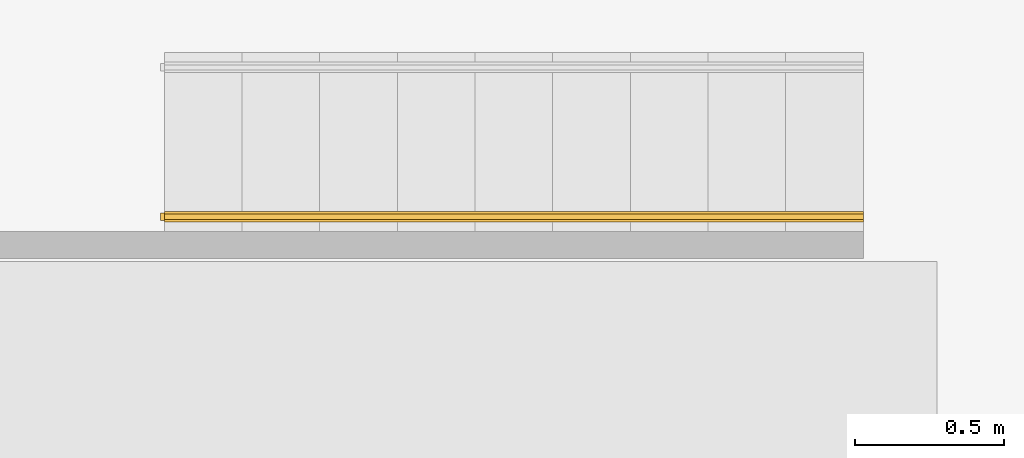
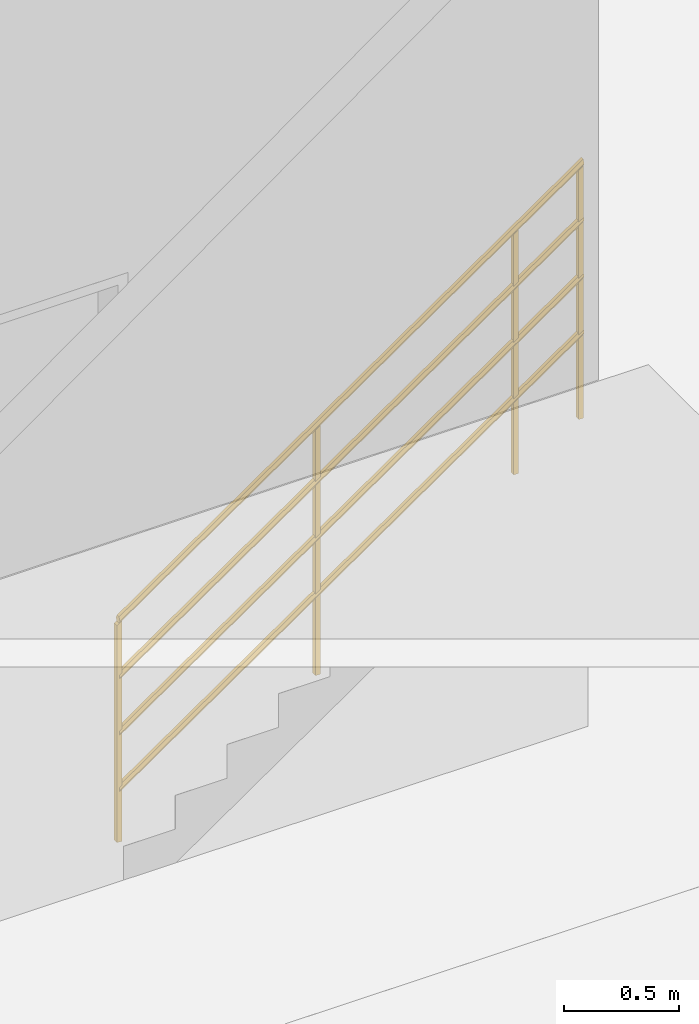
# One storey, part 26 of 30: 1 railing, 1 element without a shape of its own.
"""IFC2X3 building model written with IfcOpenShell, lengths in millimetres."""

import ifcopenshell
import ifcopenshell.guid

model = None  # the IFC model being written
_history = None  # IfcOwnerHistory: only IFC2X3 demands one
_inside = {}  # id of a spatial element -> (the spatial element, [elements in it])
_under = {}  # id of a project, library or spatial element -> (it, [spatial elements below it])
_declared = {}  # id of a project -> (the project, [libraries it declares])
_typed = {}  # id of a type object -> (the type object, [elements of that type])
_made_of = {}  # id of a material, layer set ... -> (it, [elements and type objects made of it])


def new_model(schema):
    """Start an empty IFC model of exactly this schema.

    Asked for "IFC4X3", IfcOpenShell would pick the latest addendum, in which some entities
    have other attributes; the version numbers below select the first issue.
    IFC2X3 requires an IfcOwnerHistory on every rooted entity: one is made here for all.
    """
    global model, _history
    if schema == "IFC4X3":
        model = ifcopenshell.file(schema_version=(4, 3, 0, 0))
    else:
        model = ifcopenshell.file(schema=schema)
    _inside.clear()
    _under.clear()
    _declared.clear()
    _typed.clear()
    _made_of.clear()
    _history = None
    if model.schema == "IFC2X3":
        org = make("IfcOrganization", Name="unknown")
        user = make(
            "IfcPersonAndOrganization",
            ThePerson=make("IfcPerson", FamilyName="unknown"),
            TheOrganization=org,
        )
        app = make(
            "IfcApplication",
            ApplicationDeveloper=org,
            Version="unknown",
            ApplicationFullName="unknown",
            ApplicationIdentifier="unknown",
        )
        _history = make(
            "IfcOwnerHistory",
            OwningUser=user,
            OwningApplication=app,
            ChangeAction="ADDED",
            CreationDate=0,
        )
    return model


def make(cls, **values):
    """One entity of the class cls with the attributes given. An attribute that is None is left unset."""
    return model.create_entity(
        cls, **{name: value for name, value in values.items() if value is not None}
    )


def entity(cls, *values):
    """Any entity or typed value of the class cls, its attributes in the order of the schema. None: left unset."""
    e = model.create_entity(cls)
    for i, value in enumerate(values):
        if value is not None:
            e[i] = value
    return e


def rooted(cls, **values):
    """An entity with a GlobalId (a new one), such as an element, a storey or a relation."""
    return make(cls, GlobalId=ifcopenshell.guid.new(), OwnerHistory=_history, **values)


def si_unit(unit_type, name, prefix=None):
    """IfcSIUnit, for example si_unit("LENGTHUNIT", "METRE", prefix="MILLI")."""
    return make("IfcSIUnit", UnitType=unit_type, Prefix=prefix, Name=name)


def converted_unit(unit_type, name, factor, base, dimensions=None, offset=None):
    """IfcConversionBasedUnit, such as the inch: factor (a typed value) times the base unit."""
    return make(
        "IfcConversionBasedUnit"
        if offset is None
        else "IfcConversionBasedUnitWithOffset",
        ConversionOffset=offset,
        Dimensions=None
        if dimensions is None
        else entity("IfcDimensionalExponents", *dimensions),
        UnitType=unit_type,
        Name=name,
        ConversionFactor=make(
            "IfcMeasureWithUnit", ValueComponent=factor, UnitComponent=base
        ),
    )


def derived_unit(unit_type, elements):
    """IfcDerivedUnit: a product of units, each with its exponent."""
    return make(
        "IfcDerivedUnit",
        Elements=[
            make("IfcDerivedUnitElement", Unit=unit, Exponent=power)
            for unit, power in elements
        ],
        UnitType=unit_type,
    )


def assignment(units):
    """IfcUnitAssignment: the units of a project."""
    return None if units is None else make("IfcUnitAssignment", Units=units)


def point(xyz):
    """IfcCartesianPoint."""
    return None if xyz is None else make("IfcCartesianPoint", Coordinates=xyz)


def direction(xyz):
    """IfcDirection."""
    return None if xyz is None else make("IfcDirection", DirectionRatios=xyz)


def frame(location, z_axis=None, x_axis=None):
    """IfcAxis2Placement3D, a coordinate frame: its origin and axes. An axis left out is left unset."""
    return make(
        "IfcAxis2Placement3D",
        Location=point(location),
        Axis=direction(z_axis),
        RefDirection=direction(x_axis),
    )


def origin():
    """The frame at (0, 0, 0) with its axes left unset."""
    return frame((0.0, 0.0, 0.0))


def place(relative_to, where):
    """IfcLocalPlacement: puts the frame where relative to a parent placement (None: the world)."""
    return make(
        "IfcLocalPlacement", PlacementRelTo=relative_to, RelativePlacement=where
    )


def context(
    kind, dimensions, precision=None, world=None, true_north=None, identifier=None
):
    """IfcGeometricRepresentationContext, for example the 3D "Model" context."""
    return make(
        "IfcGeometricRepresentationContext",
        ContextIdentifier=identifier,
        ContextType=kind,
        CoordinateSpaceDimension=dimensions,
        Precision=precision,
        WorldCoordinateSystem=world,
        TrueNorth=true_north,
    )


def subcontext(parent, identifier, kind, view, scale=None):
    """IfcGeometricRepresentationSubContext, for example "Body" below "Model"."""
    return make(
        "IfcGeometricRepresentationSubContext",
        ContextIdentifier=identifier,
        ContextType=kind,
        ParentContext=parent,
        TargetScale=scale,
        TargetView=view,
    )


def project(units=None, contexts=None):
    """IfcProject with its units and contexts."""
    return rooted(
        "IfcProject",
        Name="project",
        RepresentationContexts=contexts,
        UnitsInContext=assignment(units),
    )


def spatial(cls, under=None, at=None, **own):
    """A site, building, storey or space (cls), placed at a placement, below another one or the project."""
    s = rooted(cls, ObjectPlacement=at, **own)
    if under is not None:
        _under.setdefault(under.id(), (under, []))[1].append(s)
    return s


def faces_of(points, faces, orient=None, outer=None):
    """IfcFace entities. A face is a list of loops; a loop is a list of indices into points, from 0.

    orient and outer hold one flag for each loop. By default every Orientation is true, the
    first loop of a face is its IfcFaceOuterBound and the others are IfcFaceBound.
    """
    made = []
    for i, loops in enumerate(faces):
        bounds = []
        for j, loop in enumerate(loops):
            is_outer = j == 0 if outer is None else outer[i][j]
            bounds.append(
                make(
                    "IfcFaceOuterBound" if is_outer else "IfcFaceBound",
                    Bound=make("IfcPolyLoop", Polygon=[points[k] for k in loop]),
                    Orientation=True if orient is None else orient[i][j],
                )
            )
        made.append(make("IfcFace", Bounds=bounds))
    return made


def faceted_brep(points, faces, orient=None, outer=None, voids=None):
    """IfcFacetedBrep: a solid bounded by flat faces; with voids (closed shells), ...WithVoids."""
    shared = [point(p) for p in points]
    hull = make("IfcClosedShell", CfsFaces=faces_of(shared, faces, orient, outer))
    if voids is None:
        return make("IfcFacetedBrep", Outer=hull)
    return make(
        "IfcFacetedBrepWithVoids",
        Outer=hull,
        Voids=[
            make(cls, CfsFaces=faces_of(shared, fs, o, b)) for cls, fs, o, b in voids
        ],
    )


def shape(context_of_items, identifier, shape_type, items):
    """IfcShapeRepresentation: the items that make up one representation, for example the "Body"."""
    return make(
        "IfcShapeRepresentation",
        ContextOfItems=context_of_items,
        RepresentationIdentifier=identifier,
        RepresentationType=shape_type,
        Items=items,
    )


def material(Name=None, Category=None):
    """IfcMaterial."""
    return make("IfcMaterial", Name=Name, Category=Category)


def material_list(materials):
    """IfcMaterialList."""
    return make("IfcMaterialList", Materials=materials)


def made_of(thing, what):
    """Note that an element or type object is made of a material, layer set ...; save() writes the relation."""
    if what is not None:
        _made_of.setdefault(what.id(), (what, []))[1].append(thing)
    return thing


def element(
    cls,
    number,
    at=None,
    inside=None,
    cuts=None,
    type_object=None,
    material=None,
    context=None,
    identifier="Body",
    shape_type=None,
    held_by="IfcProductDefinitionShape",
    body=None,
    shapes=None,
    **own,
):
    """One element of the class cls, such as IfcWall. Its Tag is "e" and its number.

    at: its placement. inside: the storey or other place that contains it. cuts: it is an
    opening in that element (IfcRelVoidsElement). A single representation is given by context,
    identifier, shape_type and body (its items); several are given by shapes. held_by: the class
    of the entity that holds the representations. save() writes the other relations.
    """
    e = rooted(cls, Tag="e%d" % number, ObjectPlacement=at, **own)
    if body is not None:
        shapes = [shape(context, identifier, shape_type, body)]
    if shapes is not None:
        e.Representation = make(held_by, Representations=shapes)
    if inside is not None:
        _inside.setdefault(inside.id(), (inside, []))[1].append(e)
    if cuts is not None:
        rooted(
            "IfcRelVoidsElement", RelatingBuildingElement=cuts, RelatedOpeningElement=e
        )
    if type_object is not None:
        _typed.setdefault(type_object.id(), (type_object, []))[1].append(e)
    return made_of(e, material)


def aggregate(whole, parts):
    """IfcRelAggregates: a whole, such as a stair, and the parts it consists of."""
    return rooted("IfcRelAggregates", RelatingObject=whole, RelatedObjects=parts)


def save(model, path):
    """Write the relations noted so far, then the file.

    IfcRelAggregates (storeys below a building ...), IfcRelContainedInSpatialStructure (elements
    in a storey), IfcRelDefinesByType, IfcRelAssociatesMaterial and IfcRelDeclares: one each for
    every whole, place, type object, material and project.
    """
    for whole, parts in _under.values():
        aggregate(whole, parts)
    for where, things in _inside.values():
        rooted(
            "IfcRelContainedInSpatialStructure",
            RelatedElements=things,
            RelatingStructure=where,
        )
    for kind, things in _typed.values():
        rooted("IfcRelDefinesByType", RelatedObjects=things, RelatingType=kind)
    for what, things in _made_of.values():
        rooted("IfcRelAssociatesMaterial", RelatedObjects=things, RelatingMaterial=what)
    for by, libraries in _declared.values():
        rooted("IfcRelDeclares", RelatingContext=by, RelatedDefinitions=libraries)
    model.write(path)


model = new_model("IFC2X3")

# Units and contexts
model_context = context("Model", 3, precision=0.01, world=origin(), true_north=direction((6.123031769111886e-17, 1.0)))
body_context = subcontext(model_context, "Body", "Model", "MODEL_VIEW")
ifc_project = project(units=[si_unit("LENGTHUNIT", "METRE", prefix="MILLI"), si_unit("AREAUNIT", "SQUARE_METRE"), si_unit("VOLUMEUNIT", "CUBIC_METRE"), converted_unit("PLANEANGLEUNIT", "DEGREE", entity("IfcRatioMeasure", 0.017453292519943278), si_unit("PLANEANGLEUNIT", "RADIAN"), dimensions=[0, 0, 0, 0, 0, 0, 0]), si_unit("MASSUNIT", "GRAM", prefix="KILO"), derived_unit("MASSDENSITYUNIT", [(si_unit("MASSUNIT", "GRAM", prefix="KILO"), 1), (si_unit("LENGTHUNIT", "METRE"), -3)]), derived_unit("MOMENTOFINERTIAUNIT", [(si_unit("LENGTHUNIT", "METRE"), 4)]), si_unit("TIMEUNIT", "SECOND"), si_unit("FREQUENCYUNIT", "HERTZ"), si_unit("THERMODYNAMICTEMPERATUREUNIT", "DEGREE_CELSIUS"), derived_unit("THERMALTRANSMITTANCEUNIT", [(si_unit("MASSUNIT", "GRAM", prefix="KILO"), 1), (si_unit("THERMODYNAMICTEMPERATUREUNIT", "KELVIN"), -1), (si_unit("TIMEUNIT", "SECOND"), -3)]), derived_unit("VOLUMETRICFLOWRATEUNIT", [(si_unit("LENGTHUNIT", "METRE"), 3), (si_unit("TIMEUNIT", "SECOND"), -1)]), derived_unit("MASSFLOWRATEUNIT", [(si_unit("MASSUNIT", "GRAM", prefix="KILO"), 1), (si_unit("TIMEUNIT", "SECOND"), -1)]), derived_unit("ROTATIONALFREQUENCYUNIT", [(si_unit("TIMEUNIT", "SECOND"), -1)]), si_unit("ELECTRICCURRENTUNIT", "AMPERE"), si_unit("ELECTRICVOLTAGEUNIT", "VOLT"), si_unit("POWERUNIT", "WATT"), si_unit("FORCEUNIT", "NEWTON", prefix="KILO"), si_unit("ILLUMINANCEUNIT", "LUX"), si_unit("LUMINOUSFLUXUNIT", "LUMEN"), si_unit("LUMINOUSINTENSITYUNIT", "CANDELA"), derived_unit("USERDEFINED", [(si_unit("MASSUNIT", "GRAM", prefix="KILO"), -1), (si_unit("LENGTHUNIT", "METRE"), -2), (si_unit("TIMEUNIT", "SECOND"), 3), (si_unit("LUMINOUSFLUXUNIT", "LUMEN"), 1)]), derived_unit("SOUNDPOWERUNIT", [(si_unit("MASSUNIT", "GRAM", prefix="KILO"), 1), (si_unit("LENGTHUNIT", "METRE"), 2), (si_unit("TIMEUNIT", "SECOND"), -3)]), derived_unit("SOUNDPRESSUREUNIT", [(si_unit("MASSUNIT", "GRAM", prefix="KILO"), 1), (si_unit("LENGTHUNIT", "METRE"), -1), (si_unit("TIMEUNIT", "SECOND"), -2)]), derived_unit("LINEARVELOCITYUNIT", [(si_unit("LENGTHUNIT", "METRE"), 1), (si_unit("TIMEUNIT", "SECOND"), -1)]), si_unit("PRESSUREUNIT", "PASCAL"), derived_unit("USERDEFINED", [(si_unit("LENGTHUNIT", "METRE"), -2), (si_unit("MASSUNIT", "GRAM", prefix="KILO"), 1), (si_unit("TIMEUNIT", "SECOND"), -2)]), derived_unit("LINEARFORCEUNIT", [(si_unit("MASSUNIT", "GRAM", prefix="KILO"), 1), (si_unit("LENGTHUNIT", "METRE"), 1), (si_unit("TIMEUNIT", "SECOND"), -2), (si_unit("LENGTHUNIT", "METRE"), -1)]), derived_unit("PLANARFORCEUNIT", [(si_unit("MASSUNIT", "GRAM", prefix="KILO"), 1), (si_unit("LENGTHUNIT", "METRE"), 1), (si_unit("TIMEUNIT", "SECOND"), -2), (si_unit("LENGTHUNIT", "METRE"), -2)])], contexts=[model_context])

# Site, building, storey
site_placement = place(None, frame((-14167.972527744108, -657.2125860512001, 0.0)))
site = spatial("IfcSite", under=ifc_project, at=site_placement, Name="Default", CompositionType="ELEMENT")
building_placement = place(site_placement, origin())
building = spatial("IfcBuilding", under=site, at=building_placement, Name="Sample Building", CompositionType="ELEMENT")
storey_placement = place(building_placement, frame((0.0, 0.0, -10100.0)))
storey = spatial("IfcBuildingStorey", under=building, at=storey_placement, Name="지하2층", CompositionType="ELEMENT", Elevation=-10100.0)

# Stair, railing
stair_placement = place(storey_placement, origin())
stair = element("IfcStair", 1, at=stair_placement, inside=storey, Name="현장타설 계단:계단", ObjectType="현장타설 계단:ST111-철근콘크리트구조 계단 (직선형)", ShapeType="STRAIGHT_RUN_STAIR")
ifc_material_1 = material(Name="KBIMS-난간")
ifc_material_2 = material(Name="KBIMS-금속재")
ifc_material_list = material_list([ifc_material_1, ifc_material_1, ifc_material_1, ifc_material_1, ifc_material_2, ifc_material_2, ifc_material_2, ifc_material_2])
railing_placement = place(stair_placement, frame((16065.463798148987, 18188.117035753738, -1620.0)))
railing = element("IfcRailing", 2, at=railing_placement, material=ifc_material_list, Name="난간:RL780-금속재 난간", ObjectType="난간:RL780-금속재 난간", PredefinedType="NOTDEFINED", context=body_context, shape_type="Brep", body=[
    faceted_brep([(2000.0, 6.595272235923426, 2540.9615384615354), (2000.0, 31.59527223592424, 2540.9615384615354), (2000.0, 31.59527223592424, 1260.0), (2000.0, 6.5952722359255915, 1260.0), (2025.0, 6.5952722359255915, 2558.269230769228), (2025.0, 6.5952722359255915, 1260.0), (2025.0, 31.595272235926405, 2558.269230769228), (2025.0, 31.59527223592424, 1260.0)], [[[0, 1, 2, 3]], [[4, 0, 3, 5]], [[6, 4, 5, 7]], [[1, 6, 7, 2]], [[1, 0, 4, 6]], [[3, 2, 7, 5]]]),
    faceted_brep([(1000.0, 6.5952722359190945, 1848.6538461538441), (1000.0, 31.595272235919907, 1848.6538461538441), (1000.0, 31.595272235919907, 540.0), (1000.0, 6.59527223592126, 540.0), (1025.0, 6.59527223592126, 1865.961538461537), (1025.0, 6.59527223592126, 540.0), (1025.0, 31.595272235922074, 1865.961538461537), (1025.0, 31.595272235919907, 540.0)], [[[0, 1, 2, 3]], [[4, 0, 3, 5]], [[6, 4, 5, 7]], [[1, 6, 7, 2]], [[1, 0, 4, 6]], [[3, 2, 7, 5]]]),
    faceted_brep([(2327.5000000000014, 6.595272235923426, 2767.692307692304), (2327.5000000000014, 31.59527223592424, 2767.6923076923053), (2327.5000000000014, 31.59527223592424, 1440.0), (2327.5000000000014, 6.5952722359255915, 1440.0), (2352.5000000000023, 6.5952722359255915, 2785.0), (2352.5, 6.5952722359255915, 1440.0), (2352.5, 31.595272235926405, 2785.0), (2352.5, 31.59527223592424, 1440.0)], [[[0, 1, 2, 3]], [[4, 0, 3, 5]], [[6, 4, 5, 7]], [[1, 6, 7, 2]], [[1, 0, 4, 6]], [[3, 2, 7, 5]]]),
    faceted_brep([(0.0, 6.595272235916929, 1156.346153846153), (0.0, 31.595272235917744, 1156.346153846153), (0.0, 31.595272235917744, 0.0), (0.0, 6.5952722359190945, 0.0), (25.0, 6.5952722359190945, 1173.6538461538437), (25.0, 6.5952722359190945, 0.0), (25.0, 31.595272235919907, 1173.6538461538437), (25.0, 31.595272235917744, 0.0)], [[[0, 1, 2, 3]], [[4, 0, 3, 5]], [[6, 4, 5, 7]], [[1, 6, 7, 2]], [[1, 0, 4, 6]], [[3, 2, 7, 5]]]),
    faceted_brep([(12.50000000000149, 27.845272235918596, 1197.1484095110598), (12.500000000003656, 30.032772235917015, 1192.5401668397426), (12.50000000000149, 32.220272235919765, 1187.9319241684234), (12.50000000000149, 34.21034233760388, 1183.7395923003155), (12.50000000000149, 36.59527223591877, 1178.715438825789), (12.50000000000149, 34.210342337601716, 1173.691285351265), (12.50000000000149, 32.220272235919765, 1169.498953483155), (12.500000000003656, 30.032772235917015, 1164.8907108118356), (12.50000000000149, 27.845272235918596, 1160.2824681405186), (12.50000000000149, 23.470272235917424, 1160.2824681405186), (12.50000000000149, 19.09527223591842, 1160.2824681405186), (12.50000000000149, 14.720272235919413, 1160.2824681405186), (12.50000000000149, 10.345272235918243, 1160.2824681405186), (12.500000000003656, 8.157772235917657, 1164.8907108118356), (12.50000000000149, 5.970272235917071, 1169.498953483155), (12.50000000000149, 3.7827722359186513, 1174.107196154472), (12.50000000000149, 1.5952722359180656, 1178.715438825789), (12.50000000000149, 3.98020213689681, 1183.7395923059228), (12.500000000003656, 6.365132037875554, 1188.7637457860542), (12.50000000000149, 8.355202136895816, 1192.9560776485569), (12.50000000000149, 10.345272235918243, 1197.1484095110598), (12.50000000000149, 14.720272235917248, 1197.1484095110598), (12.50000000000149, 19.09527223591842, 1197.1484095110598), (12.50000000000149, 23.47027223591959, 1197.1484095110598), (2352.5, 8.157772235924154, 2812.5401668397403), (2352.5, 5.970272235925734, 2807.931924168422), (2352.5, 3.9802021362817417, 2803.739592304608), (2352.5, 1.5952722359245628, 2798.715438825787), (2352.5, 3.98020213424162, 2793.6912853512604), (2352.5, 5.970272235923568, 2789.4989534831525), (2352.5, 8.157772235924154, 2784.8907108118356), (2352.5, 10.345272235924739, 2780.2824681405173), (2352.5, 14.720272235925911, 2780.2824681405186), (2352.5, 19.095272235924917, 2780.2824681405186), (2352.499999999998, 23.470272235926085, 2780.2824681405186), (2352.5, 27.84527223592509, 2780.2824681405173), (2352.5, 29.835342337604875, 2784.474800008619), (2352.5, 31.82541243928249, 2788.667131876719), (2352.5, 34.21034233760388, 2793.6912853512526), (2352.5, 36.59527223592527, 2798.715438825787), (2352.5, 34.40777223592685, 2803.323681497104), (2352.5, 32.2202722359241, 2807.931924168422), (2352.5, 30.032772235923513, 2812.5401668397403), (2352.5, 27.84527223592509, 2817.1484095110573), (2352.5, 23.47027223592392, 2817.1484095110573), (2352.5, 19.095272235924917, 2817.1484095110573), (2352.5, 14.720272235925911, 2817.1484095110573), (2352.5, 10.345272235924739, 2817.1484095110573)], [[[0, 1, 2, 3, 4, 5, 6, 7, 8, 9, 10, 11, 12, 13, 14, 15, 16, 17, 18, 19, 20, 21, 22, 23]], [[24, 25, 26, 27, 28, 29, 30, 31, 32, 33, 34, 35, 36, 37, 38, 39, 40, 41, 42, 43, 44, 45, 46, 47]], [[8, 7, 6, 5, 4, 39, 38, 37, 36, 35]], [[32, 31, 12, 11, 10, 9, 8, 35, 34, 33]], [[27, 16, 15, 14, 13, 12, 31, 30, 29, 28]], [[44, 43, 0, 23, 22, 21, 20, 47, 46, 45]], [[39, 4, 3, 2, 1, 0, 43, 42, 41, 40]], [[25, 24, 47, 20, 19, 18, 17, 16, 27, 26]]]),
    faceted_brep([(12.50000000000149, 27.845272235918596, 897.1484095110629), (12.499999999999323, 30.032772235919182, 892.5401668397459), (12.50000000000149, 32.220272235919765, 887.9319241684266), (12.50000000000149, 34.21034233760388, 883.7395923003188), (12.50000000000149, 36.59527223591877, 878.7154388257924), (12.50000000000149, 34.21034233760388, 873.6912853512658), (12.50000000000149, 32.220272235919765, 869.4989534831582), (12.50000000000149, 30.032772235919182, 864.8907108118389), (12.50000000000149, 27.845272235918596, 860.2824681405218), (12.50000000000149, 23.470272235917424, 860.2824681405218), (12.50000000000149, 19.09527223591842, 860.2824681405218), (12.50000000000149, 14.720272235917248, 860.2824681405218), (12.50000000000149, 10.345272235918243, 860.2824681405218), (12.50000000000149, 8.157772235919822, 864.8907108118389), (12.50000000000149, 5.970272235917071, 869.4989534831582), (12.500000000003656, 3.7827722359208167, 874.1071961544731), (12.50000000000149, 1.5952722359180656, 878.7154388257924), (12.50000000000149, 3.98020213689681, 883.739592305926), (12.500000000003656, 6.365132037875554, 888.7637457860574), (12.50000000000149, 8.355202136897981, 892.9560776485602), (12.50000000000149, 10.345272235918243, 897.1484095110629), (12.50000000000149, 14.720272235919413, 897.1484095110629), (12.499999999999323, 19.09527223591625, 897.1484095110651), (12.50000000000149, 23.470272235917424, 897.1484095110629), (2352.5, 8.157772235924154, 2512.5401668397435), (2352.5, 5.970272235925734, 2507.931924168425), (2352.5, 3.9802021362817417, 2503.739592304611), (2352.5, 1.5952722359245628, 2498.71543882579), (2352.5, 3.9802021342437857, 2493.6912853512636), (2352.5, 5.970272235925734, 2489.4989534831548), (2352.5, 8.157772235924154, 2484.890710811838), (2352.5, 10.345272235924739, 2480.2824681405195), (2352.5, 14.720272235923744, 2480.2824681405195), (2352.5, 19.095272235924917, 2480.2824681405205), (2352.5, 23.47027223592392, 2480.2824681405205), (2352.5, 27.84527223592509, 2480.2824681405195), (2352.5, 29.83534233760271, 2484.474800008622), (2352.5, 31.82541243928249, 2488.667131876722), (2352.5, 34.21034233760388, 2493.691285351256), (2352.5, 36.59527223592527, 2498.71543882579), (2352.5, 34.40777223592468, 2503.3236814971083), (2352.5, 32.2202722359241, 2507.931924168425), (2352.5, 30.032772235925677, 2512.5401668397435), (2352.5, 27.84527223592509, 2517.148409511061), (2352.5, 23.47027223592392, 2517.148409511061), (2352.5, 19.095272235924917, 2517.148409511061), (2352.5, 14.720272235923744, 2517.148409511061), (2352.5, 10.345272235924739, 2517.148409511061)], [[[0, 1, 2, 3, 4, 5, 6, 7, 8, 9, 10, 11, 12, 13, 14, 15, 16, 17, 18, 19, 20, 21, 22, 23]], [[24, 25, 26, 27, 28, 29, 30, 31, 32, 33, 34, 35, 36, 37, 38, 39, 40, 41, 42, 43, 44, 45, 46, 47]], [[8, 7, 6, 5, 4, 39, 38, 37, 36, 35]], [[32, 31, 12, 11, 10, 9, 8, 35, 34, 33]], [[27, 16, 15, 14, 13, 12, 31, 30, 29, 28]], [[44, 43, 0, 23, 22, 21, 20, 47, 46, 45]], [[39, 4, 3, 2, 1, 0, 43, 42, 41, 40]], [[25, 24, 47, 20, 19, 18, 17, 16, 27, 26]]]),
    faceted_brep([(12.50000000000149, 36.59527223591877, 578.7154388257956), (12.50000000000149, 34.210342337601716, 573.6912853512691), (12.50000000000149, 32.220272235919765, 569.4989534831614), (12.50000000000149, 30.032772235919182, 564.8907108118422), (12.50000000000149, 27.845272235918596, 560.282468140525), (12.50000000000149, 23.470272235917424, 560.282468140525), (12.50000000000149, 19.09527223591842, 560.282468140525), (12.50000000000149, 14.720272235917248, 560.282468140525), (12.50000000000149, 10.345272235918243, 560.282468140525), (12.50000000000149, 8.157772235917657, 564.8907108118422), (12.50000000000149, 5.970272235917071, 569.4989534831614), (12.50000000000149, 3.7827722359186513, 574.1071961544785), (12.50000000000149, 1.5952722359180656, 578.7154388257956), (12.50000000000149, 3.98020213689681, 583.739592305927), (12.500000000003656, 6.365132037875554, 588.7637457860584), (12.50000000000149, 8.355202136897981, 592.9560776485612), (12.50000000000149, 10.345272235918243, 597.148409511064), (12.50000000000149, 14.720272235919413, 597.148409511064), (12.499999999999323, 19.09527223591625, 597.148409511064), (12.50000000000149, 23.470272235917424, 597.148409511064), (12.50000000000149, 27.845272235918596, 597.148409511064), (12.499999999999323, 30.032772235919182, 592.5401668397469), (12.50000000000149, 32.220272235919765, 587.9319241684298), (12.50000000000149, 34.21034233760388, 583.7395923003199), (2352.5, 8.157772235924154, 2212.5401668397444), (2352.5, 5.970272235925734, 2207.9319241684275), (2352.5, 3.9802021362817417, 2203.7395923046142), (2352.5, 1.5952722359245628, 2198.7154388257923), (2352.5, 3.98020213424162, 2193.691285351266), (2352.5, 5.970272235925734, 2189.498953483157), (2352.5, 8.157772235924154, 2184.8907108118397), (2352.5, 10.345272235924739, 2180.2824681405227), (2352.5, 14.720272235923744, 2180.2824681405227), (2352.5, 19.095272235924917, 2180.2824681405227), (2352.5, 23.47027223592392, 2180.2824681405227), (2352.5, 27.84527223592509, 2180.2824681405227), (2352.5, 29.83534233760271, 2184.474800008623), (2352.5, 31.82541243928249, 2188.667131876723), (2352.5, 34.21034233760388, 2193.691285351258), (2352.5, 36.59527223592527, 2198.7154388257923), (2352.5, 34.40777223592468, 2203.3236814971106), (2352.5, 32.2202722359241, 2207.9319241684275), (2352.5, 30.032772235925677, 2212.5401668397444), (2352.5, 27.84527223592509, 2217.1484095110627), (2352.5, 23.47027223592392, 2217.1484095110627), (2352.5, 19.095272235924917, 2217.1484095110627), (2352.5, 14.720272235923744, 2217.1484095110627), (2352.5, 10.345272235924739, 2217.1484095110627)], [[[0, 1, 2, 3, 4, 5, 6, 7, 8, 9, 10, 11, 12, 13, 14, 15, 16, 17, 18, 19, 20, 21, 22, 23]], [[24, 25, 26, 27, 28, 29, 30, 31, 32, 33, 34, 35, 36, 37, 38, 39, 40, 41, 42, 43, 44, 45, 46, 47]], [[4, 3, 2, 1, 0, 39, 38, 37, 36, 35]], [[32, 31, 8, 7, 6, 5, 4, 35, 34, 33]], [[27, 12, 11, 10, 9, 8, 31, 30, 29, 28]], [[44, 43, 20, 19, 18, 17, 16, 47, 46, 45]], [[39, 0, 23, 22, 21, 20, 43, 42, 41, 40]], [[25, 24, 47, 16, 15, 14, 13, 12, 27, 26]]]),
    faceted_brep([(12.50000000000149, 27.845272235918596, 297.1484095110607), (12.500000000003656, 30.032772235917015, 292.5401668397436), (12.50000000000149, 32.220272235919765, 287.93192416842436), (12.50000000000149, 34.21034233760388, 283.73959230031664), (12.50000000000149, 36.59527223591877, 278.71543882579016), (12.50000000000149, 34.210342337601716, 273.6912853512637), (12.50000000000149, 32.220272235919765, 269.49895348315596), (12.500000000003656, 30.032772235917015, 264.8907108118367), (12.50000000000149, 27.845272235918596, 260.28246814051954), (12.50000000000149, 23.470272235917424, 260.28246814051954), (12.50000000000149, 19.09527223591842, 260.28246814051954), (12.50000000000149, 14.720272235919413, 260.28246814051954), (12.50000000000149, 10.345272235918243, 260.28246814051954), (12.500000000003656, 8.157772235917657, 264.8907108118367), (12.50000000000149, 5.970272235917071, 269.49895348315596), (12.50000000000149, 3.7827722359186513, 274.10719615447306), (12.50000000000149, 1.5952722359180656, 278.71543882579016), (12.50000000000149, 3.98020213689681, 283.73959230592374), (12.500000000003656, 6.365132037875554, 288.76374578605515), (12.50000000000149, 8.355202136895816, 292.95607764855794), (12.50000000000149, 10.345272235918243, 297.1484095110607), (12.50000000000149, 14.720272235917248, 297.1484095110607), (12.50000000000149, 19.09527223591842, 297.1484095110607), (12.50000000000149, 23.47027223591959, 297.14840951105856), (2352.5, 8.157772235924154, 1912.5401668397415), (2352.5, 5.970272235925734, 1907.9319241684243), (2352.5, 3.9802021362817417, 1903.739592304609), (2352.5, 1.5952722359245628, 1898.715438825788), (2352.5, 3.98020213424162, 1893.6912853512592), (2352.5, 5.970272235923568, 1889.4989534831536), (2352.5, 8.157772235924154, 1884.8907108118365), (2352.5, 10.345272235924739, 1880.2824681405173), (2352.5, 14.720272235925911, 1880.2824681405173), (2352.5, 19.095272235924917, 1880.2824681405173), (2352.499999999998, 23.470272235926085, 1880.2824681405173), (2352.5, 27.84527223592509, 1880.2824681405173), (2352.5, 29.835342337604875, 1884.4748000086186), (2352.5, 31.82541243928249, 1888.6671318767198), (2352.5, 34.21034233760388, 1893.691285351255), (2352.5, 36.59527223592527, 1898.715438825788), (2352.5, 34.40777223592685, 1903.323681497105), (2352.5, 32.2202722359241, 1907.9319241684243), (2352.5, 30.032772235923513, 1912.5401668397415), (2352.5, 27.84527223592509, 1917.1484095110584), (2352.5, 23.47027223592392, 1917.1484095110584), (2352.5, 19.095272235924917, 1917.1484095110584), (2352.5, 14.720272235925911, 1917.1484095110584), (2352.5, 10.345272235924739, 1917.1484095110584)], [[[0, 1, 2, 3, 4, 5, 6, 7, 8, 9, 10, 11, 12, 13, 14, 15, 16, 17, 18, 19, 20, 21, 22, 23]], [[24, 25, 26, 27, 28, 29, 30, 31, 32, 33, 34, 35, 36, 37, 38, 39, 40, 41, 42, 43, 44, 45, 46, 47]], [[8, 7, 6, 5, 4, 39, 38, 37, 36, 35]], [[32, 31, 12, 11, 10, 9, 8, 35, 34, 33]], [[27, 16, 15, 14, 13, 12, 31, 30, 29, 28]], [[44, 43, 0, 23, 22, 21, 20, 47, 46, 45]], [[39, 4, 3, 2, 1, 0, 43, 42, 41, 40]], [[25, 24, 47, 20, 19, 18, 17, 16, 27, 26]]]),
])
aggregate(stair, [railing])

save(model, "model.ifc")
